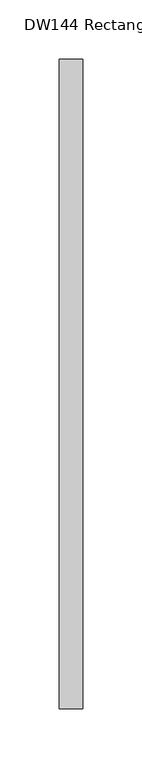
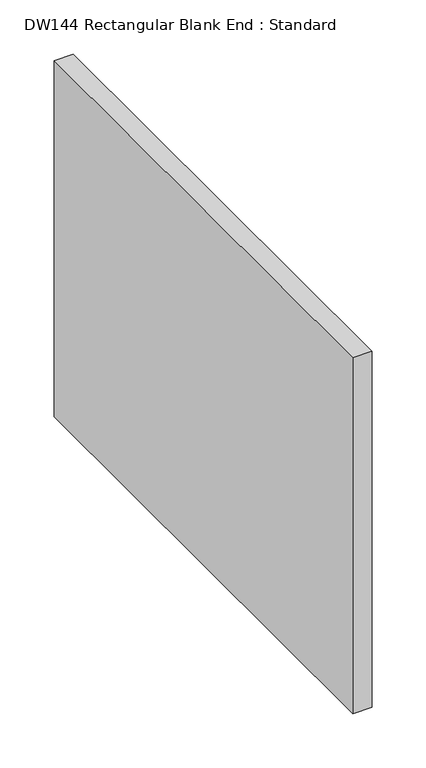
"""IFC4 building model written with IfcOpenShell, lengths in millimetres: duct fitting geometry, DW144 Rectangular Blank End : Standard."""

from ifc_helpers import new_model, si_unit, frame, origin, place, context, project, spatial, polyline, outline, extrude, source, transform, mapped, element, save


def dw144_rectangular_blank_end_standard_1669e3e3(model_context):
    return source(origin(), model_context, "Body", "SweptSolid", [
        extrude(outline(polyline([(20.0, 275.0), (20.0, -275.0), (0.0, -275.0), (0.0, 275.0), (20.0, 275.0)])), frame((0.0, 0.0, -200.0), z_axis=(0.0, 0.0, 1.0), x_axis=(1.0, 0.0, 0.0)), (0.0, 0.0, 1.0), 400.0),
    ])


if __name__ == "__main__":
    model = new_model("IFC4")
    model_context = context("Model", 3, world=origin())
    ifc_project = project(units=[si_unit("LENGTHUNIT", "METRE", prefix="MILLI")], contexts=[model_context])
    site = spatial("IfcSite", under=ifc_project)
    building = spatial("IfcBuilding", under=site)
    placement = place(None, origin())
    dw144_rectangular_blank_end_standard_shape = dw144_rectangular_blank_end_standard_1669e3e3(model_context)
    element("IfcDuctFitting", 1, ObjectType="DW144 Rectangular Blank End : Standard", at=placement, inside=building, context=model_context, shape_type="MappedRepresentation", body=[
        mapped(dw144_rectangular_blank_end_standard_shape, transform((0.0, 0.0, 0.0), x_axis=(1.0, 0.0, 0.0), y_axis=(0.0, 1.0, 0.0), z_axis=(0.0, 0.0, 1.0))),
    ])
    save(model, "model.ifc")
